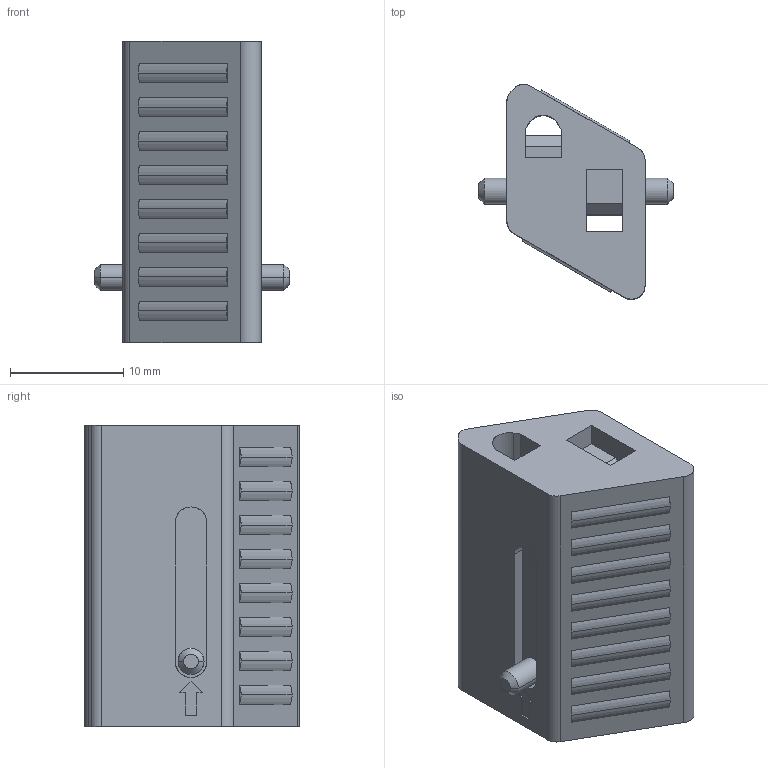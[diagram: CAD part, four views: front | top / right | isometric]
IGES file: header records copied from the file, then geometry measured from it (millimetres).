
Start section: SolidWorks IGES file using analytic representation for surfaces
Bounding box: 17.2 x 18.97 x 26.6 mm (x, y, z)
Surface area: 2350 mm2 (no closed solid volume)
Topology: 0 solids, 0 shells, 126 faces, 944 edges, 944 vertices
Faces by surface type: bspline 84, revolution 42
